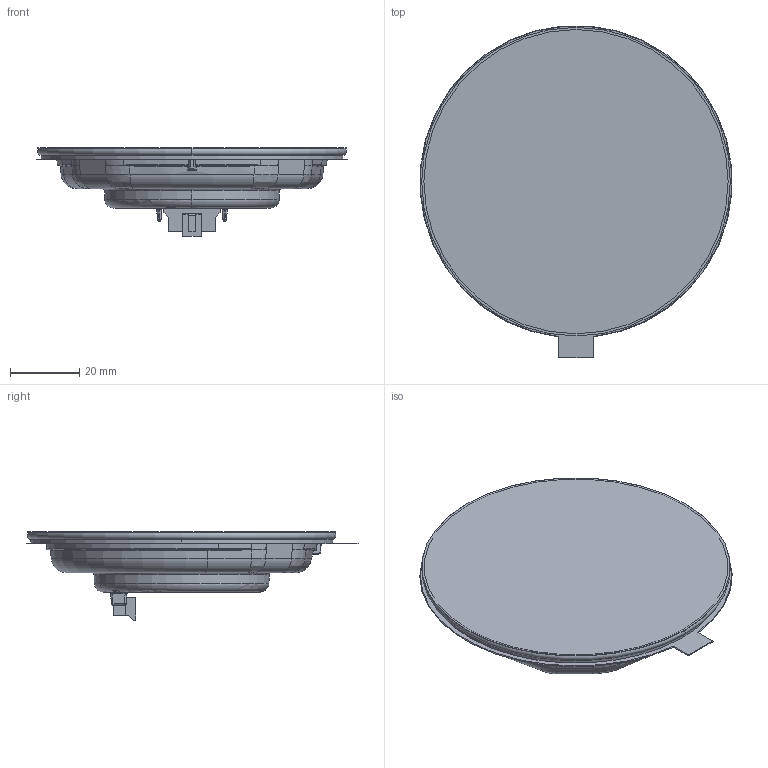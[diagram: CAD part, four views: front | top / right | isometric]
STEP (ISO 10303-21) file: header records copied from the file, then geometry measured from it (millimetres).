
FILE_DESCRIPTION((''),'2;1');
FILE_NAME('TE-F53B-X-XXX_INSTALL_ASM','2023-03-28T',('arichard'),(''),'PRO/ENGINEER BY PARAMETRIC TECHNOLOGY CORPORATION, 2016100','PRO/ENGINEER BY PARAMETRIC TECHNOLOGY CORPORATION, 2016100','');
FILE_SCHEMA(('CONFIG_CONTROL_DESIGN'));
Length unit declared in the file: inch
Products named in the file (12): T10514-231; T10514_RL; T13909-6_ASM; T15710-X; T15710-X_RELEASELINER; T15710-X_ASM; T19926-6_ASM; T11109; SCN4215-0928; T19927-X_ASM; SSS2427-34_TEYY-F53001; TE-F53B-X-XXX_INSTALL_ASM
Assembly tree (11 placements, depth 4):
  TE-F53B-X-XXX_INSTALL_ASM
    T19926-6_ASM
      T13909-6_ASM
        T10514-231
        T10514_RL
      T15710-X_ASM
        T15710-X
        T15710-X_RELEASELINER
    T19927-X_ASM
      T11109
      SCN4215-0928
    SSS2427-34_TEYY-F53001
Bounding box: 89.77 x 95.64 x 25.43 mm (x, y, z)
Volume: 27880.4 mm3; surface area: 47604.5 mm2
Topology: 7 solids, 7 shells, 728 faces, 1797 edges, 1114 vertices
Faces by surface type: plane 378, cylinder 158, bspline 86, torus 46, cone 36, sphere 14, extrusion 10
Entity records: 26301 total; most frequent: CARTESIAN_POINT 9216, ORIENTED_EDGE 3586, DIRECTION 3391, EDGE_CURVE 1793, AXIS2_PLACEMENT_3D 1151, VERTEX_POINT 1114, VECTOR 1089, LINE 1079
